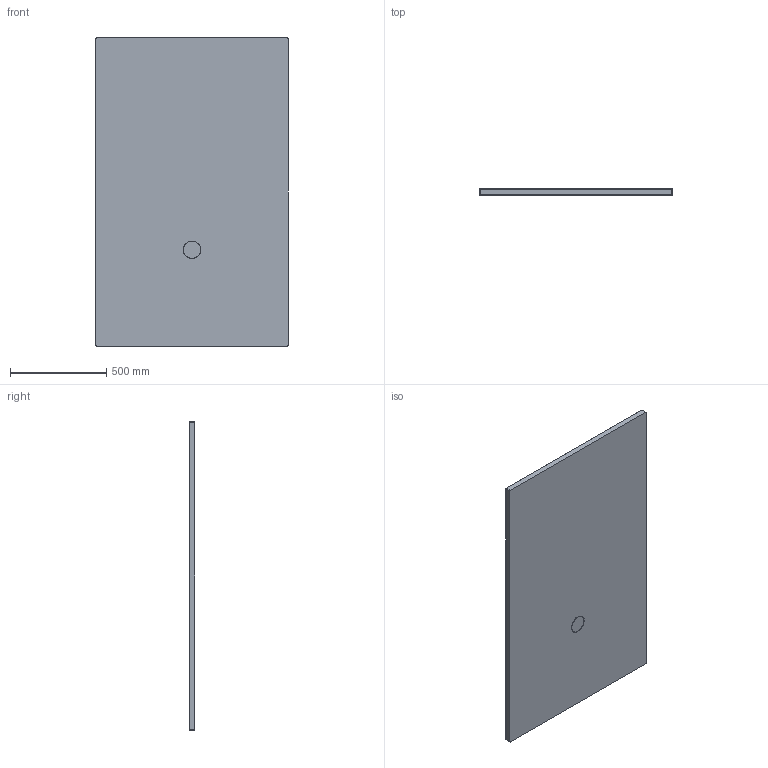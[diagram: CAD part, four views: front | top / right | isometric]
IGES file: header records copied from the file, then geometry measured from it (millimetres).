
Start section: SolidWorks IGES file using analytic representation for surfaces
Global section: file name: D:\Users\M.Szymanski\Desktop\Brodziki\Nias\B_M_NIAS_160x100x1,5.IGS; native system: SolidWorks 2011; preprocessor: SolidWorks 2011; author: M.Szymanski; date: 180222.142556; units: millimetre
Bounding box: 1000 x 30 x 1600 mm (x, y, z)
Surface area: 3372303.7 mm2 (no closed solid volume)
Topology: 0 solids, 0 shells, 45 faces, 663 edges, 662 vertices
Faces by surface type: bspline 25, revolution 20
